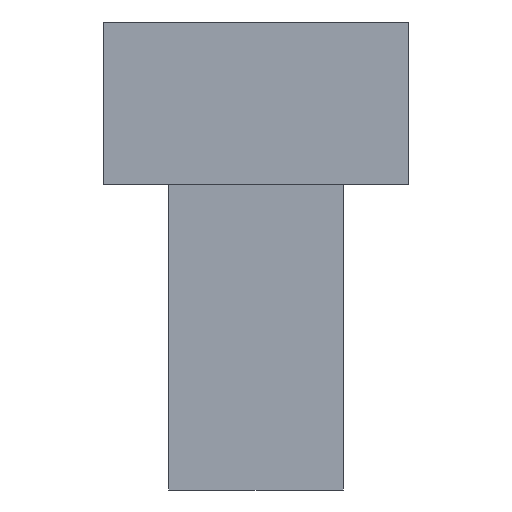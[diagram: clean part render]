
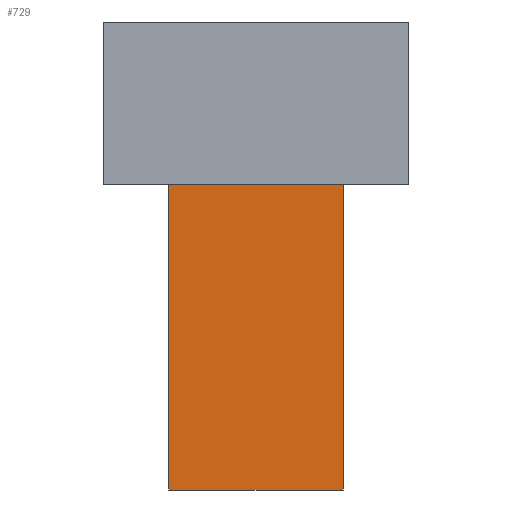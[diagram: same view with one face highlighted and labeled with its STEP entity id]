
A CAD part, front view. The second image highlights one B-rep face of the part: STEP entity #729.
In plain terms, the highlighted planar face has unit normal (0, -1, 0).
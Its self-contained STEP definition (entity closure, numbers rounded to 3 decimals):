
#72 = PLANE('',#73);
#73 = AXIS2_PLACEMENT_3D('',#74,#75,#76);
#74 = CARTESIAN_POINT('',(-7.5,-83.,169.5));
#75 = DIRECTION('',(0.,0.,1.));
#76 = DIRECTION('',(1.,0.,-0.));
#342 = VERTEX_POINT('',#343);
#343 = CARTESIAN_POINT('',(-4.3,-71.8,169.5));
#359 = PLANE('',#360);
#360 = AXIS2_PLACEMENT_3D('',#361,#362,#363);
#361 = CARTESIAN_POINT('',(-4.3,-71.8,154.5));
#362 = DIRECTION('',(1.,0.,-0.));
#363 = DIRECTION('',(0.,0.,1.));
#400 = VERTEX_POINT('',#401);
#401 = CARTESIAN_POINT('',(4.3,-71.8,169.5));
#415 = PLANE('',#416);
#416 = AXIS2_PLACEMENT_3D('',#417,#418,#419);
#417 = CARTESIAN_POINT('',(4.3,-71.8,154.5));
#418 = DIRECTION('',(1.,0.,-0.));
#419 = DIRECTION('',(0.,0.,1.));
#427 = EDGE_CURVE('',#342,#400,#428,.T.);
#428 = SURFACE_CURVE('',#429,(#433,#440),.PCURVE_S1.);
#429 = LINE('',#430,#431);
#430 = CARTESIAN_POINT('',(-4.3,-71.8,169.5));
#431 = VECTOR('',#432,1.);
#432 = DIRECTION('',(1.,0.,-0.));
#433 = PCURVE('',#72,#434);
#434 = DEFINITIONAL_REPRESENTATION('',(#435),#439);
#435 = LINE('',#436,#437);
#436 = CARTESIAN_POINT('',(3.2,11.2));
#437 = VECTOR('',#438,1.);
#438 = DIRECTION('',(1.,0.));
#439 = ( GEOMETRIC_REPRESENTATION_CONTEXT(2) 
PARAMETRIC_REPRESENTATION_CONTEXT() REPRESENTATION_CONTEXT('2D SPACE',''
  ) );
#440 = PCURVE('',#441,#446);
#441 = PLANE('',#442);
#442 = AXIS2_PLACEMENT_3D('',#443,#444,#445);
#443 = CARTESIAN_POINT('',(-4.3,-71.8,154.5));
#444 = DIRECTION('',(-0.,1.,0.));
#445 = DIRECTION('',(0.,0.,1.));
#446 = DEFINITIONAL_REPRESENTATION('',(#447),#451);
#447 = LINE('',#448,#449);
#448 = CARTESIAN_POINT('',(15.,0.));
#449 = VECTOR('',#450,1.);
#450 = DIRECTION('',(0.,1.));
#451 = ( GEOMETRIC_REPRESENTATION_CONTEXT(2) 
PARAMETRIC_REPRESENTATION_CONTEXT() REPRESENTATION_CONTEXT('2D SPACE',''
  ) );
#577 = EDGE_CURVE('',#578,#342,#580,.T.);
#578 = VERTEX_POINT('',#579);
#579 = CARTESIAN_POINT('',(-4.3,-71.8,154.5));
#580 = SURFACE_CURVE('',#581,(#585,#592),.PCURVE_S1.);
#581 = LINE('',#582,#583);
#582 = CARTESIAN_POINT('',(-4.3,-71.8,154.5));
#583 = VECTOR('',#584,1.);
#584 = DIRECTION('',(0.,0.,1.));
#585 = PCURVE('',#359,#586);
#586 = DEFINITIONAL_REPRESENTATION('',(#587),#591);
#587 = LINE('',#588,#589);
#588 = CARTESIAN_POINT('',(0.,0.));
#589 = VECTOR('',#590,1.);
#590 = DIRECTION('',(1.,0.));
#591 = ( GEOMETRIC_REPRESENTATION_CONTEXT(2) 
PARAMETRIC_REPRESENTATION_CONTEXT() REPRESENTATION_CONTEXT('2D SPACE',''
  ) );
#592 = PCURVE('',#441,#593);
#593 = DEFINITIONAL_REPRESENTATION('',(#594),#598);
#594 = LINE('',#595,#596);
#595 = CARTESIAN_POINT('',(0.,0.));
#596 = VECTOR('',#597,1.);
#597 = DIRECTION('',(1.,0.));
#598 = ( GEOMETRIC_REPRESENTATION_CONTEXT(2) 
PARAMETRIC_REPRESENTATION_CONTEXT() REPRESENTATION_CONTEXT('2D SPACE',''
  ) );
#616 = PLANE('',#617);
#617 = AXIS2_PLACEMENT_3D('',#618,#619,#620);
#618 = CARTESIAN_POINT('',(-4.3,-71.8,154.5));
#619 = DIRECTION('',(0.,0.,1.));
#620 = DIRECTION('',(1.,0.,-0.));
#729 = ADVANCED_FACE('',(#730),#441,.F.);
#730 = FACE_BOUND('',#731,.F.);
#731 = EDGE_LOOP('',(#732,#755,#756,#757));
#732 = ORIENTED_EDGE('',*,*,#733,.F.);
#733 = EDGE_CURVE('',#578,#734,#736,.T.);
#734 = VERTEX_POINT('',#735);
#735 = CARTESIAN_POINT('',(4.3,-71.8,154.5));
#736 = SURFACE_CURVE('',#737,(#741,#748),.PCURVE_S1.);
#737 = LINE('',#738,#739);
#738 = CARTESIAN_POINT('',(-4.3,-71.8,154.5));
#739 = VECTOR('',#740,1.);
#740 = DIRECTION('',(1.,0.,-0.));
#741 = PCURVE('',#441,#742);
#742 = DEFINITIONAL_REPRESENTATION('',(#743),#747);
#743 = LINE('',#744,#745);
#744 = CARTESIAN_POINT('',(0.,0.));
#745 = VECTOR('',#746,1.);
#746 = DIRECTION('',(0.,1.));
#747 = ( GEOMETRIC_REPRESENTATION_CONTEXT(2) 
PARAMETRIC_REPRESENTATION_CONTEXT() REPRESENTATION_CONTEXT('2D SPACE',''
  ) );
#748 = PCURVE('',#616,#749);
#749 = DEFINITIONAL_REPRESENTATION('',(#750),#754);
#750 = LINE('',#751,#752);
#751 = CARTESIAN_POINT('',(0.,0.));
#752 = VECTOR('',#753,1.);
#753 = DIRECTION('',(1.,0.));
#754 = ( GEOMETRIC_REPRESENTATION_CONTEXT(2) 
PARAMETRIC_REPRESENTATION_CONTEXT() REPRESENTATION_CONTEXT('2D SPACE',''
  ) );
#755 = ORIENTED_EDGE('',*,*,#577,.T.);
#756 = ORIENTED_EDGE('',*,*,#427,.T.);
#757 = ORIENTED_EDGE('',*,*,#758,.F.);
#758 = EDGE_CURVE('',#734,#400,#759,.T.);
#759 = SURFACE_CURVE('',#760,(#764,#771),.PCURVE_S1.);
#760 = LINE('',#761,#762);
#761 = CARTESIAN_POINT('',(4.3,-71.8,154.5));
#762 = VECTOR('',#763,1.);
#763 = DIRECTION('',(0.,0.,1.));
#764 = PCURVE('',#441,#765);
#765 = DEFINITIONAL_REPRESENTATION('',(#766),#770);
#766 = LINE('',#767,#768);
#767 = CARTESIAN_POINT('',(0.,8.6));
#768 = VECTOR('',#769,1.);
#769 = DIRECTION('',(1.,0.));
#770 = ( GEOMETRIC_REPRESENTATION_CONTEXT(2) 
PARAMETRIC_REPRESENTATION_CONTEXT() REPRESENTATION_CONTEXT('2D SPACE',''
  ) );
#771 = PCURVE('',#415,#772);
#772 = DEFINITIONAL_REPRESENTATION('',(#773),#777);
#773 = LINE('',#774,#775);
#774 = CARTESIAN_POINT('',(0.,0.));
#775 = VECTOR('',#776,1.);
#776 = DIRECTION('',(1.,0.));
#777 = ( GEOMETRIC_REPRESENTATION_CONTEXT(2) 
PARAMETRIC_REPRESENTATION_CONTEXT() REPRESENTATION_CONTEXT('2D SPACE',''
  ) );
